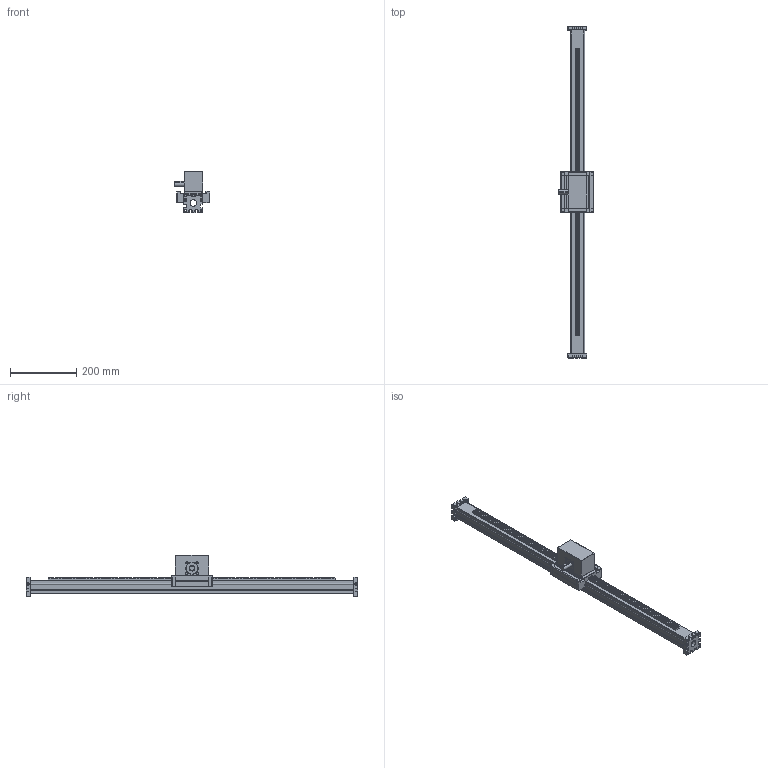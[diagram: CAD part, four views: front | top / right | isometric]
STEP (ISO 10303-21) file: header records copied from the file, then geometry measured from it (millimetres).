
FILE_DESCRIPTION (( 'STEP AP214' ), '1' );
FILE_NAME ('ELZA40.STEP', '2022-07-21T11:49:54', ( '' ), ( '' ), 'SwSTEP 2.0', 'SolidWorks 2020', '' );
FILE_SCHEMA (( 'AUTOMOTIVE_DESIGN' ));
Length unit declared in the file: millimetre
Products named in the file (5): drive block^ELZA40_shaft pos. 1; carriage^ELZA40_carriage version 0; ELZA40; end plate^ELZA40_2x guide rods; profile^ELZA40_2x guide rods
Assembly tree (5 placements, depth 2):
  ELZA40
    profile^ELZA40_2x guide rods
    carriage^ELZA40_carriage version 0
    drive block^ELZA40_shaft pos. 1
    end plate^ELZA40_2x guide rods  x2
Bounding box: 108 x 1000 x 124 mm (x, y, z)
Volume: 1605976.7 mm3; surface area: 473485.7 mm2
Topology: 11 solids, 11 shells, 1363 faces, 3921 edges, 2598 vertices
Faces by surface type: plane 1196, cylinder 147, torus 8, cone 8, sphere 4
Entity records: 40059 total; most frequent: CARTESIAN_POINT 6962, ORIENTED_EDGE 6850, DIRECTION 6081, EDGE_CURVE 3425, VECTOR 3159, LINE 3159, VERTEX_POINT 2272, AXIS2_PLACEMENT_3D 1461
